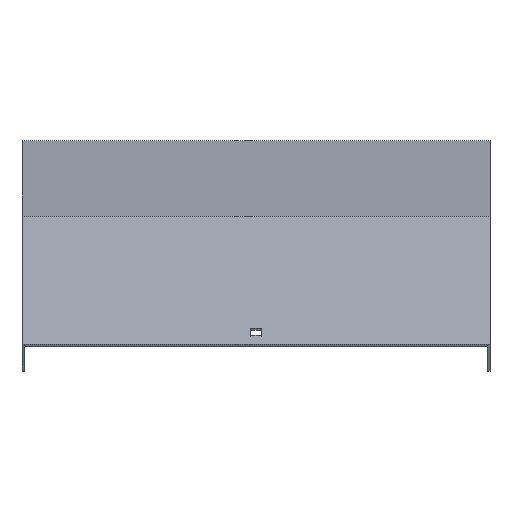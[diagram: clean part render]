
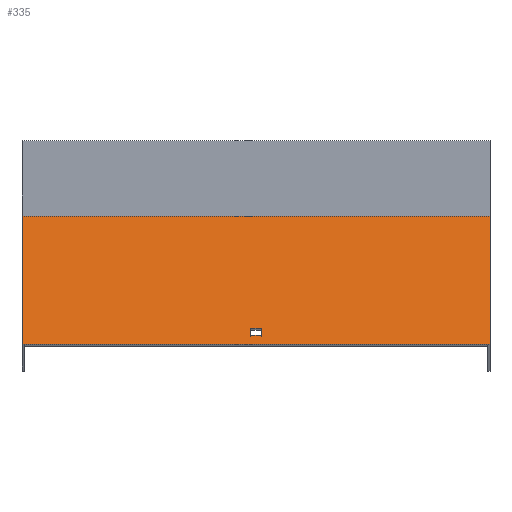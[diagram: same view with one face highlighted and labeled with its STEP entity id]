
A CAD part, top view. The second image highlights one B-rep face of the part: STEP entity #335.
In plain terms, the highlighted planar face has unit normal (0, 0.866, 0.5).
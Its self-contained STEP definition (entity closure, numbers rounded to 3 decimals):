
#6 = ORIENTED_EDGE ( 'NONE', *, *, #418, .F. ) ;
#35 = EDGE_LOOP ( 'NONE', ( #593, #559, #160, #714 ) ) ;
#42 = DIRECTION ( 'NONE',  ( -1., 0., 0. ) ) ;
#80 = VECTOR ( 'NONE', #42, 1000. ) ;
#85 = CARTESIAN_POINT ( 'NONE',  ( -3.25, -30.302, 351.73 ) ) ;
#87 = CARTESIAN_POINT ( 'NONE',  ( 151.5, -30.302, 351.73 ) ) ;
#93 = VECTOR ( 'NONE', #486, 1000. ) ;
#107 = VERTEX_POINT ( 'NONE', #574 ) ;
#108 = EDGE_CURVE ( 'NONE', #747, #505, #634, .T. ) ;
#144 = LINE ( 'NONE', #792, #535 ) ;
#160 = ORIENTED_EDGE ( 'NONE', *, *, #839, .T. ) ;
#180 = LINE ( 'NONE', #317, #444 ) ;
#192 = CARTESIAN_POINT ( 'NONE',  ( -3.25, -106.302, 483.366 ) ) ;
#199 = VECTOR ( 'NONE', #648, 1000. ) ;
#218 = CARTESIAN_POINT ( 'NONE',  ( 151.5, -28.986, 349.45 ) ) ;
#224 = DIRECTION ( 'NONE',  ( 0., 0.5, -0.866 ) ) ;
#231 = VERTEX_POINT ( 'NONE', #459 ) ;
#244 = VERTEX_POINT ( 'NONE', #778 ) ;
#246 = CARTESIAN_POINT ( 'NONE',  ( 151.5, -28.986, 349.45 ) ) ;
#248 = FACE_BOUND ( 'NONE', #35, .T. ) ;
#265 = VERTEX_POINT ( 'NONE', #192 ) ;
#277 = CARTESIAN_POINT ( 'NONE',  ( 151.5, -112.302, 493.759 ) ) ;
#282 = FACE_OUTER_BOUND ( 'NONE', #529, .T. ) ;
#288 = LINE ( 'NONE', #348, #93 ) ;
#289 = AXIS2_PLACEMENT_3D ( 'NONE', #87, #803, #480 ) ;
#317 = CARTESIAN_POINT ( 'NONE',  ( 3.25, -30.302, 351.73 ) ) ;
#327 = LINE ( 'NONE', #592, #565 ) ;
#335 = ADVANCED_FACE ( 'NONE', ( #248, #282 ), #610, .F. ) ;
#348 = CARTESIAN_POINT ( 'NONE',  ( 151.5, -30.302, 351.73 ) ) ;
#374 = VERTEX_POINT ( 'NONE', #218 ) ;
#379 = DIRECTION ( 'NONE',  ( 0., -0.5, 0.866 ) ) ;
#387 = EDGE_CURVE ( 'NONE', #107, #231, #526, .T. ) ;
#418 = EDGE_CURVE ( 'NONE', #374, #747, #288, .T. ) ;
#421 = ORIENTED_EDGE ( 'NONE', *, *, #754, .T. ) ;
#444 = VECTOR ( 'NONE', #379, 1000. ) ;
#448 = LINE ( 'NONE', #246, #199 ) ;
#459 = CARTESIAN_POINT ( 'NONE',  ( 3.25, -101.802, 475.572 ) ) ;
#468 = DIRECTION ( 'NONE',  ( -1., 0., 0. ) ) ;
#472 = VECTOR ( 'NONE', #811, 1000. ) ;
#480 = DIRECTION ( 'NONE',  ( 0., 0.5, -0.866 ) ) ;
#486 = DIRECTION ( 'NONE',  ( 0., -0.5, 0.866 ) ) ;
#489 = ORIENTED_EDGE ( 'NONE', *, *, #580, .T. ) ;
#505 = VERTEX_POINT ( 'NONE', #817 ) ;
#521 = EDGE_CURVE ( 'NONE', #265, #107, #810, .T. ) ;
#526 = LINE ( 'NONE', #546, #472 ) ;
#529 = EDGE_LOOP ( 'NONE', ( #421, #551, #6, #489 ) ) ;
#535 = VECTOR ( 'NONE', #545, 1000. ) ;
#545 = DIRECTION ( 'NONE',  ( 0., -0.5, 0.866 ) ) ;
#546 = CARTESIAN_POINT ( 'NONE',  ( 151.5, -101.802, 475.572 ) ) ;
#551 = ORIENTED_EDGE ( 'NONE', *, *, #108, .F. ) ;
#559 = ORIENTED_EDGE ( 'NONE', *, *, #625, .T. ) ;
#565 = VECTOR ( 'NONE', #468, 1000. ) ;
#566 = VERTEX_POINT ( 'NONE', #583 ) ;
#574 = CARTESIAN_POINT ( 'NONE',  ( -3.25, -101.802, 475.572 ) ) ;
#580 = EDGE_CURVE ( 'NONE', #374, #566, #448, .T. ) ;
#583 = CARTESIAN_POINT ( 'NONE',  ( -151.5, -28.986, 349.45 ) ) ;
#592 = CARTESIAN_POINT ( 'NONE',  ( 151.5, -106.302, 483.366 ) ) ;
#593 = ORIENTED_EDGE ( 'NONE', *, *, #387, .T. ) ;
#610 = PLANE ( 'NONE',  #289 ) ;
#625 = EDGE_CURVE ( 'NONE', #231, #244, #180, .T. ) ;
#634 = LINE ( 'NONE', #842, #80 ) ;
#648 = DIRECTION ( 'NONE',  ( -1., 0., 0. ) ) ;
#714 = ORIENTED_EDGE ( 'NONE', *, *, #521, .T. ) ;
#747 = VERTEX_POINT ( 'NONE', #277 ) ;
#754 = EDGE_CURVE ( 'NONE', #566, #505, #144, .T. ) ;
#771 = VECTOR ( 'NONE', #224, 1000. ) ;
#778 = CARTESIAN_POINT ( 'NONE',  ( 3.25, -106.302, 483.366 ) ) ;
#792 = CARTESIAN_POINT ( 'NONE',  ( -151.5, -30.302, 351.73 ) ) ;
#803 = DIRECTION ( 'NONE',  ( 0., -0.866, -0.5 ) ) ;
#810 = LINE ( 'NONE', #85, #771 ) ;
#811 = DIRECTION ( 'NONE',  ( 1., 0., 0. ) ) ;
#817 = CARTESIAN_POINT ( 'NONE',  ( -151.5, -112.302, 493.759 ) ) ;
#839 = EDGE_CURVE ( 'NONE', #244, #265, #327, .T. ) ;
#842 = CARTESIAN_POINT ( 'NONE',  ( 151.5, -112.302, 493.759 ) ) ;
